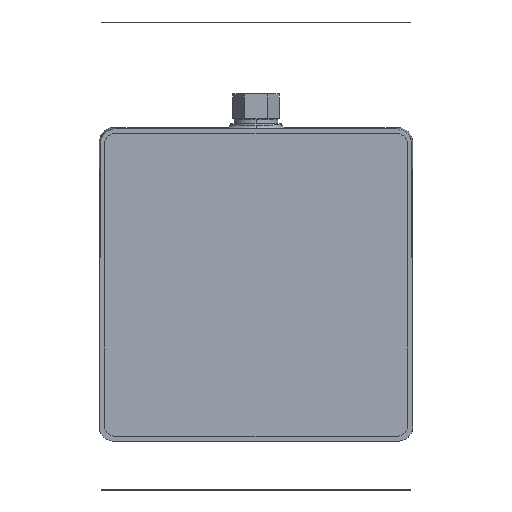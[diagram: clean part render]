
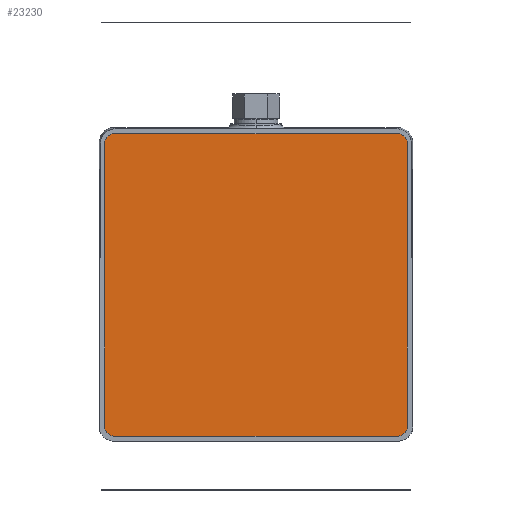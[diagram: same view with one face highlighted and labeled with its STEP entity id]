
A CAD part, front view. The second image highlights one B-rep face of the part: STEP entity #23230.
In plain terms, the highlighted planar face has unit normal (0, -1, 0).
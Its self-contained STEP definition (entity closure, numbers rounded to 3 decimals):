
#498 = CIRCLE ( 'NONE', #673, 5. ) ;
#507 = LINE ( 'NONE', #18231, #518 ) ;
#513 = CIRCLE ( 'NONE', #675, 5. ) ;
#518 = VECTOR ( 'NONE', #18221, 1000. ) ;
#520 = LINE ( 'NONE', #18216, #531 ) ;
#526 = CIRCLE ( 'NONE', #677, 5. ) ;
#531 = VECTOR ( 'NONE', #18210, 1000. ) ;
#533 = LINE ( 'NONE', #18204, #544 ) ;
#539 = CIRCLE ( 'NONE', #680, 5. ) ;
#544 = VECTOR ( 'NONE', #18199, 1000. ) ;
#550 = LINE ( 'NONE', #18197, #554 ) ;
#554 = VECTOR ( 'NONE', #18200, 1000. ) ;
#566 = EDGE_CURVE ( 'NONE', #1993, #1996, #498, .T. ) ;
#572 = EDGE_CURVE ( 'NONE', #1994, #1993, #507, .T. ) ;
#577 = EDGE_CURVE ( 'NONE', #1971, #1994, #513, .T. ) ;
#581 = EDGE_CURVE ( 'NONE', #1998, #1971, #520, .T. ) ;
#585 = EDGE_CURVE ( 'NONE', #1999, #1998, #526, .T. ) ;
#590 = EDGE_CURVE ( 'NONE', #2000, #1999, #533, .T. ) ;
#594 = EDGE_CURVE ( 'NONE', #2001, #2000, #539, .T. ) ;
#596 = EDGE_CURVE ( 'NONE', #1996, #2001, #550, .T. ) ;
#673 = AXIS2_PLACEMENT_3D ( 'NONE', #18229, #18228, #18227 ) ;
#675 = AXIS2_PLACEMENT_3D ( 'NONE', #18214, #18213, #18212 ) ;
#677 = AXIS2_PLACEMENT_3D ( 'NONE', #18203, #18202, #18201 ) ;
#680 = AXIS2_PLACEMENT_3D ( 'NONE', #18192, #18191, #18189 ) ;
#1971 = VERTEX_POINT ( 'NONE', #22162 ) ;
#1993 = VERTEX_POINT ( 'NONE', #22184 ) ;
#1994 = VERTEX_POINT ( 'NONE', #22185 ) ;
#1996 = VERTEX_POINT ( 'NONE', #22187 ) ;
#1998 = VERTEX_POINT ( 'NONE', #22189 ) ;
#1999 = VERTEX_POINT ( 'NONE', #22190 ) ;
#2000 = VERTEX_POINT ( 'NONE', #22191 ) ;
#2001 = VERTEX_POINT ( 'NONE', #22192 ) ;
#4723 = ORIENTED_EDGE ( 'NONE', *, *, #566, .F. ) ;
#4724 = ORIENTED_EDGE ( 'NONE', *, *, #572, .F. ) ;
#4725 = ORIENTED_EDGE ( 'NONE', *, *, #577, .F. ) ;
#4726 = ORIENTED_EDGE ( 'NONE', *, *, #581, .F. ) ;
#4727 = ORIENTED_EDGE ( 'NONE', *, *, #585, .F. ) ;
#4728 = ORIENTED_EDGE ( 'NONE', *, *, #590, .F. ) ;
#4729 = ORIENTED_EDGE ( 'NONE', *, *, #594, .F. ) ;
#4730 = ORIENTED_EDGE ( 'NONE', *, *, #596, .F. ) ;
#4817 = EDGE_LOOP ( 'NONE', ( #4723, #4724, #4725, #4726, #4727, #4728, #4729, #4730 ) ) ;
#10387 = AXIS2_PLACEMENT_3D ( 'NONE', #14902, #14903, #14904 ) ;
#13173 = FACE_OUTER_BOUND ( 'NONE', #4817, .T. ) ;
#14882 = PLANE ( 'NONE',  #10387 ) ;
#14902 = CARTESIAN_POINT ( 'NONE',  ( -78., -15., 6.584 ) ) ;
#14903 = DIRECTION ( 'NONE',  ( 0., 1., 0. ) ) ;
#14904 = DIRECTION ( 'NONE',  ( 0., 0., 1. ) ) ;
#18189 = DIRECTION ( 'NONE',  ( 0., 0., 1. ) ) ;
#18191 = DIRECTION ( 'NONE',  ( 0., 1., 0. ) ) ;
#18192 = CARTESIAN_POINT ( 'NONE',  ( -78., -15., 162.584 ) ) ;
#18197 = CARTESIAN_POINT ( 'NONE',  ( -83., -15., 6.584 ) ) ;
#18199 = DIRECTION ( 'NONE',  ( 1., 0., 0. ) ) ;
#18200 = DIRECTION ( 'NONE',  ( 0., 0., 1. ) ) ;
#18201 = DIRECTION ( 'NONE',  ( 0., 0., 1. ) ) ;
#18202 = DIRECTION ( 'NONE',  ( 0., 1., 0. ) ) ;
#18203 = CARTESIAN_POINT ( 'NONE',  ( 78., -15., 162.584 ) ) ;
#18204 = CARTESIAN_POINT ( 'NONE',  ( -78., -15., 167.584 ) ) ;
#18210 = DIRECTION ( 'NONE',  ( 0., 0., -1. ) ) ;
#18212 = DIRECTION ( 'NONE',  ( 0., 0., -1. ) ) ;
#18213 = DIRECTION ( 'NONE',  ( 0., 1., 0. ) ) ;
#18214 = CARTESIAN_POINT ( 'NONE',  ( 78., -15., 6.584 ) ) ;
#18216 = CARTESIAN_POINT ( 'NONE',  ( 83., -15., 6.584 ) ) ;
#18221 = DIRECTION ( 'NONE',  ( -1., 0., 0. ) ) ;
#18227 = DIRECTION ( 'NONE',  ( 0., 0., 1. ) ) ;
#18228 = DIRECTION ( 'NONE',  ( 0., 1., 0. ) ) ;
#18229 = CARTESIAN_POINT ( 'NONE',  ( -78., -15., 6.584 ) ) ;
#18231 = CARTESIAN_POINT ( 'NONE',  ( -78., -15., 1.584 ) ) ;
#22162 = CARTESIAN_POINT ( 'NONE',  ( 83., -15., 6.584 ) ) ;
#22184 = CARTESIAN_POINT ( 'NONE',  ( -78., -15., 1.584 ) ) ;
#22185 = CARTESIAN_POINT ( 'NONE',  ( 78., -15., 1.584 ) ) ;
#22187 = CARTESIAN_POINT ( 'NONE',  ( -83., -15., 6.584 ) ) ;
#22189 = CARTESIAN_POINT ( 'NONE',  ( 83., -15., 162.584 ) ) ;
#22190 = CARTESIAN_POINT ( 'NONE',  ( 78., -15., 167.584 ) ) ;
#22191 = CARTESIAN_POINT ( 'NONE',  ( -78., -15., 167.584 ) ) ;
#22192 = CARTESIAN_POINT ( 'NONE',  ( -83., -15., 162.584 ) ) ;
#23230 = ADVANCED_FACE ( 'NONE', ( #13173 ), #14882, .F. ) ;
